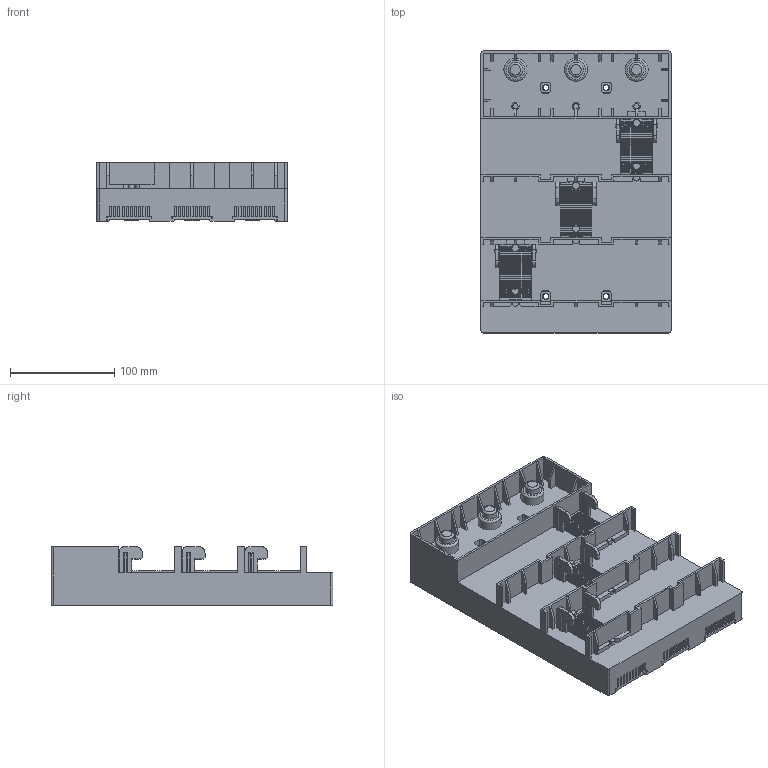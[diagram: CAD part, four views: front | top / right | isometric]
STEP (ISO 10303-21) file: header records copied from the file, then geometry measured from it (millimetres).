
FILE_DESCRIPTION (( 'STEP AP203' ), '1' );
FILE_NAME ('55005.STEP', '2021-08-30T03:09:16', ( '' ), ( '' ), 'SwSTEP 2.0', 'SolidWorks 2017', '' );
FILE_SCHEMA (( 'CONFIG_CONTROL_DESIGN' ));
Length unit declared in the file: millimetre
Products named in the file (2): 55005
Bounding box: 182 x 270 x 56.5 mm (x, y, z)
Volume: 1525707 mm3; surface area: 237664.6 mm2
Topology: 1 solids, 51 shells, 3081 faces, 9547 edges, 6304 vertices
Faces by surface type: plane 2348, cylinder 541, bspline 103, cone 62, torus 27
Full cylindrical faces by diameter (mm): 3.2 x3, 3.3 x3, 5.2 x4, 6.5 x4, 7 x6, 8.376 x3, 8.4 x4, 9 x6, 10 x12, 11 x9, 11.5 x4, 12 x7, 13 x12, 14 x9, 23 x3, 24 x2, 25 x4
Entity records: 113340 total; most frequent: CARTESIAN_POINT 30533, ORIENTED_EDGE 18616, DIRECTION 15439, EDGE_CURVE 9308, VERTEX_POINT 6231, LINE 6205, VECTOR 6205, AXIS2_PLACEMENT_3D 4617
